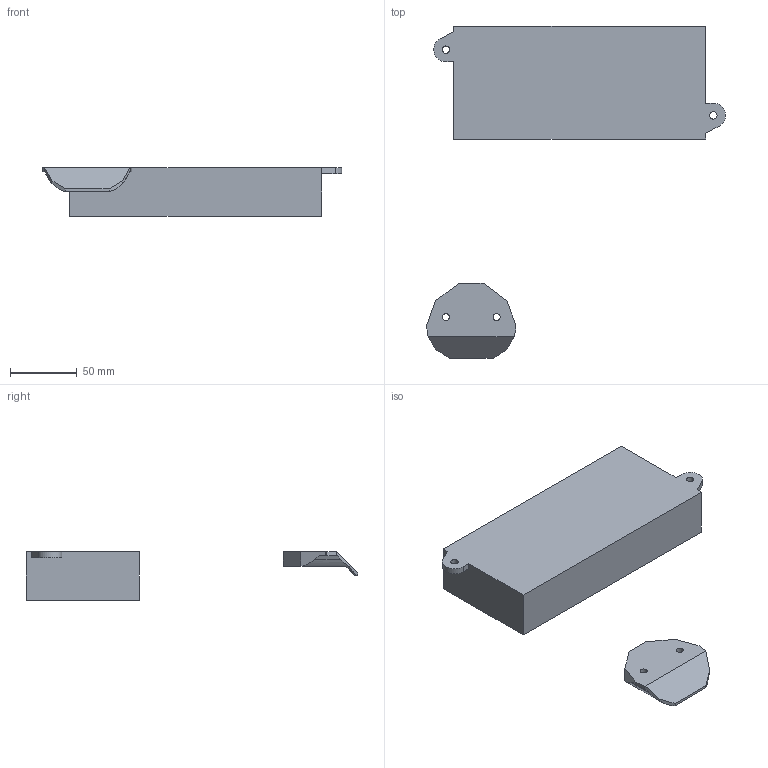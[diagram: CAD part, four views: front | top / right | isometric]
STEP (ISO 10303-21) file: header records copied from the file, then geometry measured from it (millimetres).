
FILE_DESCRIPTION( ( 'STEP AP214' ), '1' );
FILE_NAME( 'D:/Yug/2021/Delta/Office_furniture_systems/QC/9142067.stp', '2021-03-26T10:35:57', ( '' ), ( '' ), ' ', 'PARTsolutions', ' ' );
FILE_SCHEMA( ( 'AUTOMOTIVE_DESIGN { 1 0 10303 214 1 1 1 1 }' ) );
Length unit declared in the file: millimetre
Products named in the file (3): 9142067; _9142067; _9262098
Assembly tree (2 placements, depth 2):
  9142067
    _9142067
    _9262098
Bounding box: 223.53 x 248.16 x 36.51 mm (x, y, z)
Volume: 610013 mm3; surface area: 61084 mm2
Topology: 2 solids, 2 shells, 43 faces, 119 edges, 80 vertices
Faces by surface type: plane 35, cylinder 8
Full cylindrical faces by diameter (mm): 5.25 x2, 5.5 x2
Entity records: 1745 total; most frequent: CARTESIAN_POINT 237, ORIENTED_EDGE 226, DIRECTION 225, EDGE_CURVE 113, LINE 93, VECTOR 93, VERTEX_POINT 78, AXIS2_PLACEMENT_3D 66
